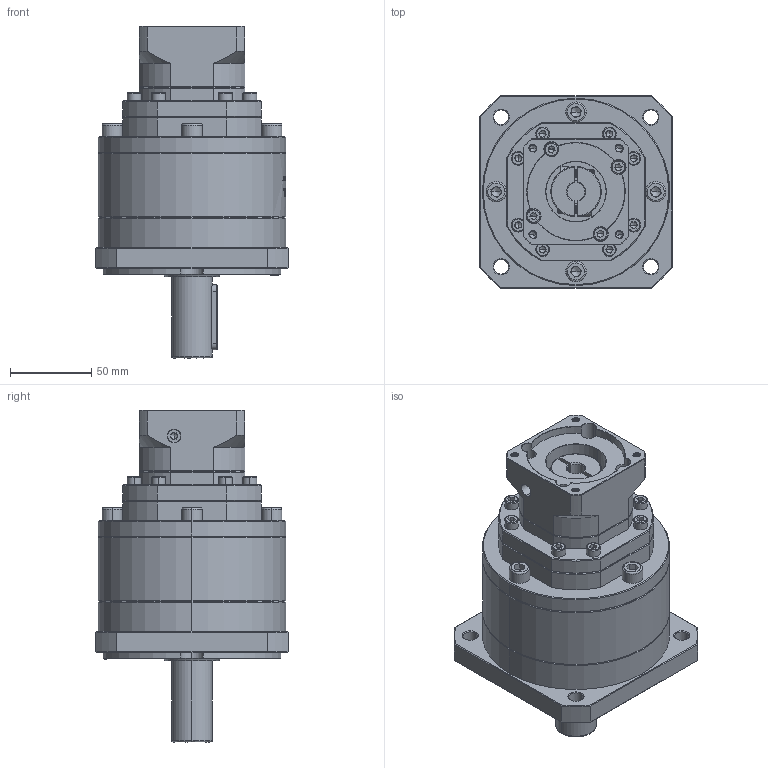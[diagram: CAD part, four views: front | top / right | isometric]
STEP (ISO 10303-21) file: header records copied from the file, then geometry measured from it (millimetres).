
FILE_DESCRIPTION (( 'STEP AP214' ), '1' );
FILE_NAME ('ZF120A-D25-L3-11-60-75-M5.step', '2023-03-07T15:54:30', ( '' ), ( 'Microsoft' ), 'SwSTEP 2.0', 'SolidWorks 2016', '' );
FILE_SCHEMA (( 'AUTOMOTIVE_DESIGN' ));
Length unit declared in the file: millimetre
Products named in the file (1): ZF120A-D25-L3-11-60-75-M5
Bounding box: 118 x 118 x 204 mm (x, y, z)
Volume: 1206324 mm3; surface area: 115762.9 mm2
Topology: 7 solids, 7 shells, 2091 faces, 5506 edges, 3514 vertices
Faces by surface type: plane 1002, cylinder 426, bspline 337, cone 304, torus 22
Entity records: 110051 total; most frequent: CARTESIAN_POINT 39166, ORIENTED_EDGE 10904, DIRECTION 8643, EDGE_CURVE 5452, VERTEX_POINT 3514, LINE 2989, VECTOR 2989, AXIS2_PLACEMENT_3D 2827
